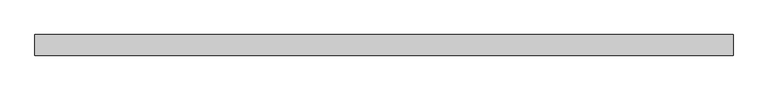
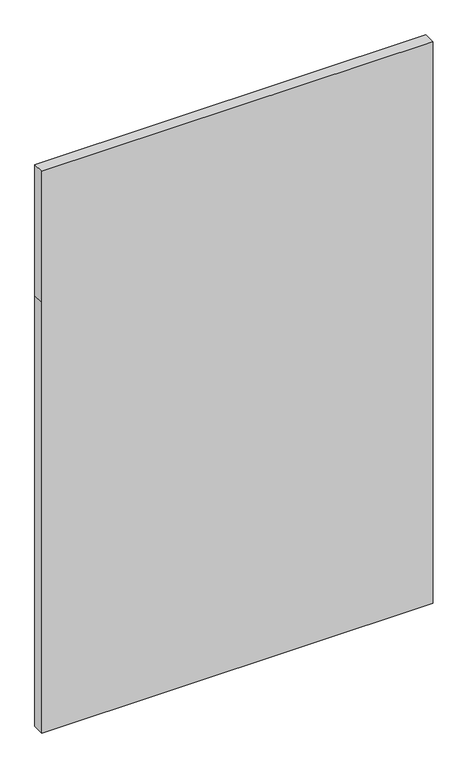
"""IFC4 building model written with IfcOpenShell, lengths in millimetres: plate geometry, Panneau système : Vitre 4cm."""

from ifc_helpers import new_model, si_unit, frame, origin, place, context, project, spatial, polyline, outline, extrude, source, transform, mapped, element, save


def plate_f56df8b1(model_context):
    return source(origin(), model_context, "Body", "SweptSolid", [
        extrude(outline(polyline([(0.0, -662.5), (0.0, 662.5), (1540.9208833, 662.5), (2010.0, 662.5), (2010.0, -662.5), (1540.9208833, -662.5), (0.0, -662.5)])), frame((0.0, -20.0, 0.0), z_axis=(0.0, 1.0, 0.0), x_axis=(0.0, 0.0, 1.0)), (0.0, 0.0, 1.0), 40.0),
    ])


if __name__ == "__main__":
    model = new_model("IFC4")
    model_context = context("Model", 3, world=origin())
    ifc_project = project(units=[si_unit("LENGTHUNIT", "METRE", prefix="MILLI")], contexts=[model_context])
    site = spatial("IfcSite", under=ifc_project)
    building = spatial("IfcBuilding", under=site)
    placement = place(None, origin())
    plate_shape = plate_f56df8b1(model_context)
    element("IfcPlate", 1, ObjectType="Panneau système : Vitre 4cm", at=placement, inside=building, context=model_context, shape_type="MappedRepresentation", body=[
        mapped(plate_shape, transform((0.0, 0.0, 0.0), x_axis=(1.0, 0.0, 0.0), y_axis=(0.0, 1.0, 0.0), z_axis=(0.0, 0.0, 1.0))),
    ])
    save(model, "model.ifc")
